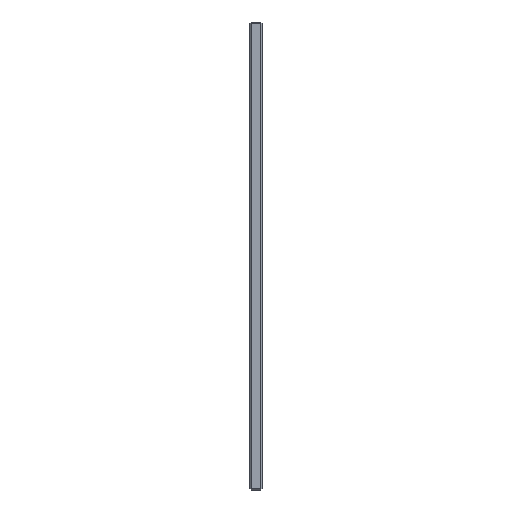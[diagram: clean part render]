
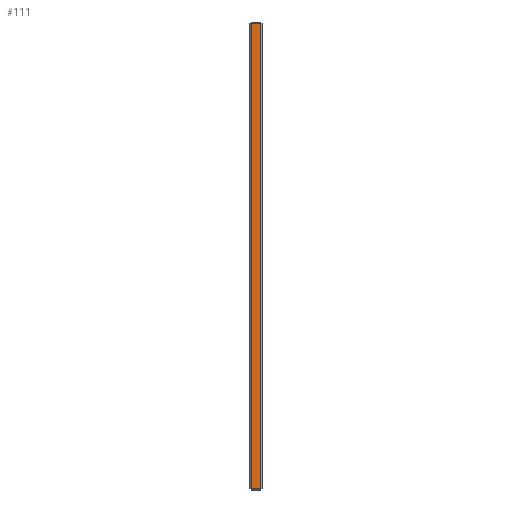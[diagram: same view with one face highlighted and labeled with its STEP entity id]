
A CAD part, left-side view. The second image highlights one B-rep face of the part: STEP entity #111.
In plain terms, the highlighted planar face has unit normal (-1, 0, 0).
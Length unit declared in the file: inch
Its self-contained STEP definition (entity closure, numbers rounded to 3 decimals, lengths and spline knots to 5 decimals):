
#101 = CARTESIAN_POINT ( 'NONE',  ( -17.6875, 0.5, -9.6875 ) ) ;
#111 = ADVANCED_FACE ( 'Placement Plane', ( #891 ), #2272, .F. ) ;
#132 = DIRECTION ( 'NONE',  ( 0., -1., 0. ) ) ;
#147 = EDGE_LOOP ( 'NONE', ( #669, #941, #1348, #1704 ) ) ;
#203 = CARTESIAN_POINT ( 'NONE',  ( -17.6875, 0.05, -9.6875 ) ) ;
#298 = CARTESIAN_POINT ( 'NONE',  ( -17.6875, 0.05, -9.6375 ) ) ;
#322 = VERTEX_POINT ( 'NONE', #1983 ) ;
#323 = DIRECTION ( 'NONE',  ( 0., 1., 0. ) ) ;
#389 = DIRECTION ( 'NONE',  ( 0., 0., 1. ) ) ;
#415 = EDGE_CURVE ( 'NONE', #1535, #322, #1139, .T. ) ;
#468 = VECTOR ( 'NONE', #389, 39.37008 ) ;
#585 = VECTOR ( 'NONE', #1241, 39.37008 ) ;
#626 = EDGE_CURVE ( 'NONE', #1431, #1535, #1047, .T. ) ;
#633 = LINE ( 'NONE', #2181, #585 ) ;
#642 = CARTESIAN_POINT ( 'NONE',  ( -17.6875, 0.5, 9.6375 ) ) ;
#669 = ORIENTED_EDGE ( 'NONE', *, *, #1851, .T. ) ;
#743 = AXIS2_PLACEMENT_3D ( 'NONE', #101, #1571, #1755 ) ;
#891 = FACE_OUTER_BOUND ( 'NONE', #147, .T. ) ;
#941 = ORIENTED_EDGE ( 'NONE', *, *, #626, .T. ) ;
#978 = VECTOR ( 'NONE', #323, 39.37008 ) ;
#1047 = LINE ( 'NONE', #1717, #1958 ) ;
#1139 = LINE ( 'NONE', #203, #468 ) ;
#1219 = VERTEX_POINT ( 'NONE', #2127 ) ;
#1241 = DIRECTION ( 'NONE',  ( 0., 0., -1. ) ) ;
#1348 = ORIENTED_EDGE ( 'NONE', *, *, #415, .T. ) ;
#1410 = CARTESIAN_POINT ( 'NONE',  ( -17.6875, 0.45, -9.6375 ) ) ;
#1431 = VERTEX_POINT ( 'NONE', #1410 ) ;
#1535 = VERTEX_POINT ( 'NONE', #298 ) ;
#1571 = DIRECTION ( 'NONE',  ( 1., 0., 0. ) ) ;
#1704 = ORIENTED_EDGE ( 'NONE', *, *, #2252, .T. ) ;
#1717 = CARTESIAN_POINT ( 'NONE',  ( -17.6875, 0.5, -9.6375 ) ) ;
#1755 = DIRECTION ( 'NONE',  ( 0., 0., -1. ) ) ;
#1851 = EDGE_CURVE ( 'NONE', #1219, #1431, #633, .T. ) ;
#1911 = LINE ( 'NONE', #642, #978 ) ;
#1958 = VECTOR ( 'NONE', #132, 39.37008 ) ;
#1983 = CARTESIAN_POINT ( 'NONE',  ( -17.6875, 0.05, 9.6375 ) ) ;
#2127 = CARTESIAN_POINT ( 'NONE',  ( -17.6875, 0.45, 9.6375 ) ) ;
#2181 = CARTESIAN_POINT ( 'NONE',  ( -17.6875, 0.45, -9.6875 ) ) ;
#2252 = EDGE_CURVE ( 'NONE', #322, #1219, #1911, .T. ) ;
#2272 = PLANE ( 'NONE',  #743 ) ;
